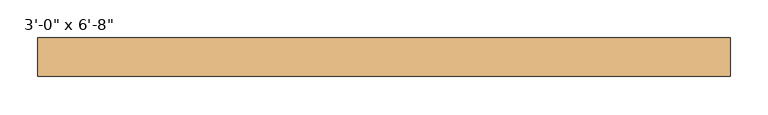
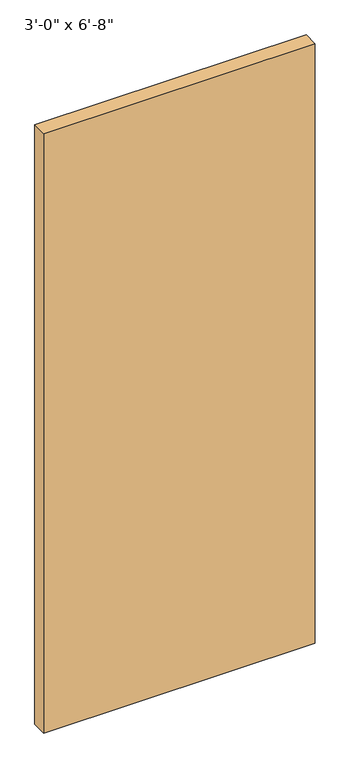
"""IFC4 building model written with IfcOpenShell, lengths in millimetres: door geometry."""

from ifc_helpers import new_model, si_unit, origin, origin_with_axes, place, context, project, spatial, polyline, outline, extrude, source, transform, mapped, element, save


def door_3bf7bac3(model_context):
    return source(origin(), model_context, "Body", "SweptSolid", [
        extrude(outline(polyline([(457.2, 6.15), (-457.2, 6.15), (-457.2, 57.15), (457.2, 57.15), (457.2, 6.15)])), origin_with_axes(), (0.0, 0.0, 1.0), 2133.6),
    ])


if __name__ == "__main__":
    model = new_model("IFC4")
    model_context = context("Model", 3, world=origin())
    ifc_project = project(units=[si_unit("LENGTHUNIT", "METRE", prefix="MILLI")], contexts=[model_context])
    site = spatial("IfcSite", under=ifc_project)
    building = spatial("IfcBuilding", under=site)
    placement = place(None, origin())
    door_shape = door_3bf7bac3(model_context)
    element("IfcDoor", 1, ObjectType="Planitar - Single Door_Flush Panel : 3'-0\" x 6'-8\"", at=placement, inside=building, context=model_context, shape_type="MappedRepresentation", body=[
        mapped(door_shape, transform((0.0, 0.0, 0.0), x_axis=(1.0, 0.0, 0.0), y_axis=(0.0, 1.0, 0.0), z_axis=(0.0, 0.0, 1.0))),
    ])
    save(model, "model.ifc")
